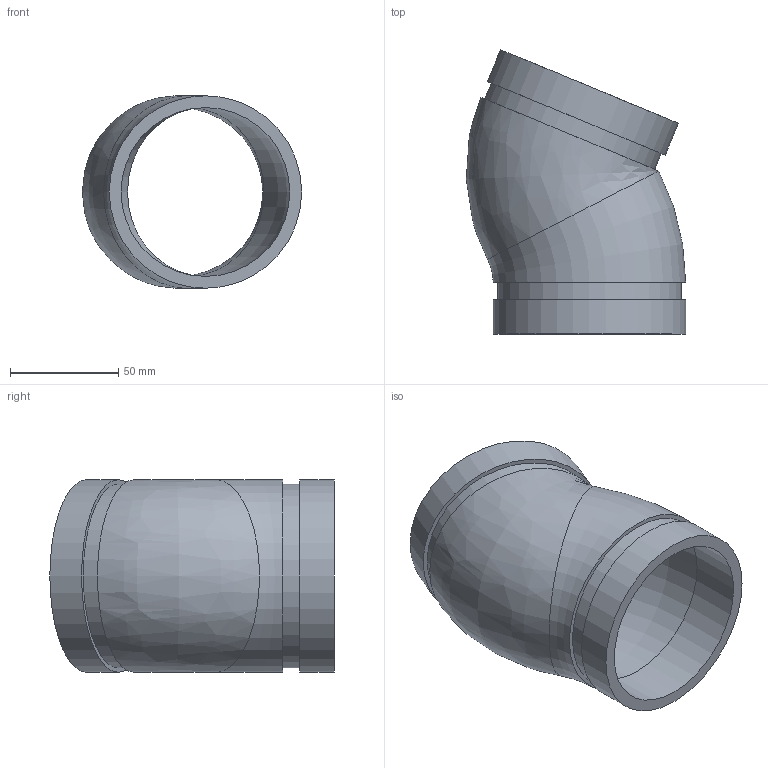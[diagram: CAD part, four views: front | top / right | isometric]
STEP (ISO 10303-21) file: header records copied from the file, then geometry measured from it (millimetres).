
FILE_DESCRIPTION(/* description */ ('VIC ELBOW 22 1/2 DEG GOOSENECK No 12 (OGS)','CAx-IF Rec.Pracs.---Representation and Presentation of Product Manufacturing Information (PMI)---4.0---2014-10-13'),/* implementation_level */ '2;1');
FILE_NAME(/* name */ 'C:\Users\Vjadhav\Desktop\CAD for Inventor\1\12\STEP\Victaulic_IPS_Elbow 22.5 Deg Gooseneck_No 12 (OGS)\Victaulic_IPS_Elbow 22.5 Deg Gooseneck_No 12 (OGS)_3 (80).stp',/* time_stamp */ '2021-12-22T09:18:38+06:00',/* author */ ('Aayare'),/* organization */ ('Victaulic'),/* preprocessor_version */ 'ST-DEVELOPER v17.2',/* originating_system */ 'Autodesk Inventor 2019',/* authorisation */ '');
FILE_SCHEMA (('AP242_MANAGED_MODEL_BASED_3D_ENGINEERING_MIM_LF { 1 0 10303 442 1 1 4 }'));
Length unit declared in the file: inch
Products named in the file (1): GN12-03.0
Bounding box: 101.32 x 131.31 x 88.9 mm (x, y, z)
Volume: 164304.4 mm3; surface area: 67007.1 mm2
Topology: 1 solids, 1 shells, 16 faces, 43 edges, 31 vertices
Faces by surface type: plane 6, cylinder 6, torus 3, bspline 1
Full cylindrical faces by diameter (mm): 77.927 x2, 84.938 x2, 88.9 x2
Entity records: 702 total; most frequent: DIRECTION 134, CARTESIAN_POINT 132, ORIENTED_EDGE 82, AXIS2_PLACEMENT_3D 64, EDGE_CURVE 41, CIRCLE 35, VERTEX_POINT 31, EDGE_LOOP 22
